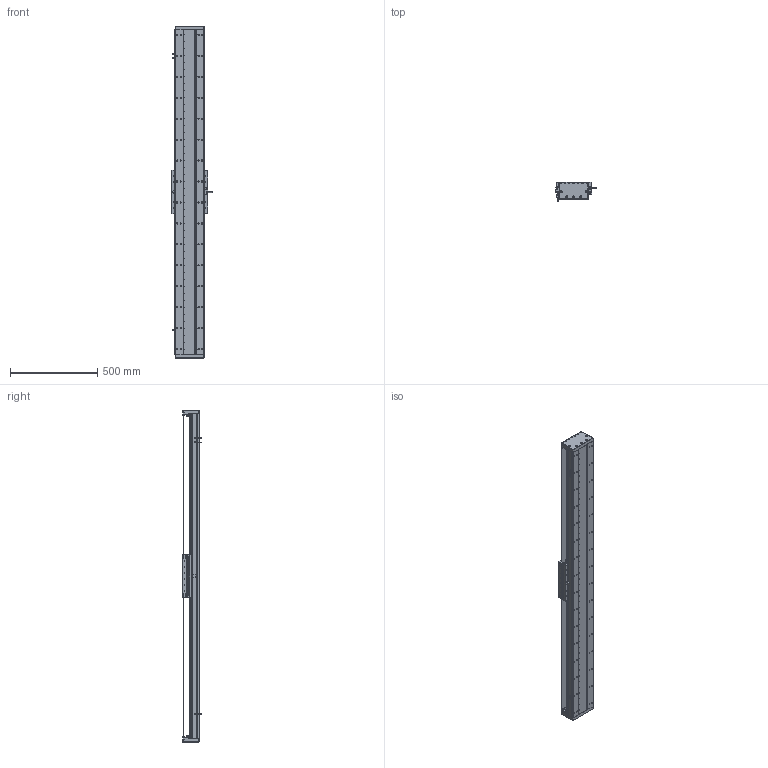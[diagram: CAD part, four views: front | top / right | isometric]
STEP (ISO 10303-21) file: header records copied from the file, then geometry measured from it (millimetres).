
FILE_DESCRIPTION (( 'STEP AP203' ), '1' );
FILE_NAME ('DA-C165-C3-T1560-C010-0.2 直线电机.STEP', '2023-06-13T08:47:32', ( '微软用户' ), ( '微软中国' ), 'SwSTEP 2.0', 'SolidWorks 2019', '' );
FILE_SCHEMA (( 'CONFIG_CONTROL_DESIGN' ));
Length unit declared in the file: millimetre
Products named in the file (18): 葩璃 CKM03-W075-C1C2-TP-3.0^DA-C165-C3-T-C010-0.2-N 眻盄萇儂; 葩璃 DA95-GT-T-00^IU-CU165-L 菁釱絳寢_T; 复件 DA165-GDLK-00 钢带拉块^复件 CU165钢带组件_DA-C165-C3-T-C010-0.2-N 直线电机; 葩璃 PM-T45^DA-C165-C3-T-C010-0.2-N 眻盄萇儂; 复件 CU165 底座^IU-CU165-L 底座导轨_L1860; 复件 CU165钢带组件^DA-C165-C3-T-C010-0.2-N 直线电机; IU-CU165-L 菁釱絳寢; 复件 DA95-HXJ-00 缓冲橡胶^DA-C165-C3-T-C010-0.2-N 直线电机; 葩璃 CKM01-W075-TRL^DA-C165-C3-T-C010-0.2-N 眻盄萇儂; DA-C165-C3-T1560-C010-0.2 眻盄萇儂; 珨极趙賑雄怢啣C3-wf; 复件 XD-U-02L 磁栅尺^DA-C165-C3-T-C010-0.2-N 直线电机_T; 复件 DMA-010-0.2 读数头^DA-C165-C3-T-C010-0.2-N 直线电机; 复件 DA165-GDYK-00 钢带压块^复件 CU165钢带组件_DA-C165-C3-T-C010-0.2-N 直线电机; 复件 DA165-GD-DG-H-00 端盖^复件 CU165钢带组件_DA-C165-C3-T-C010-0.2-N 直线电机; 复件 DA165-GD-1860-002-00 钢带盖板^复件 CU165钢带组件_DA-C165-C3-T-C010-0.2-N 直线电机; 复件 六角薄螺母 M3^DA-C165-C3-T-C010-0.2-N 直线电机_GB_FASTENER_NUT_STNAB M3-C; 复件 DA165-GYP-00 光电感应片^DA-C165-C3-T-C010-0.2-N 直线电机
Assembly tree (35 placements, depth 3):
  DA-C165-C3-T1560-C010-0.2 眻盄萇儂
    IU-CU165-L 菁釱絳寢
      复件 CU165 底座^IU-CU165-L 底座导轨_L1860
      葩璃 DA95-GT-T-00^IU-CU165-L 菁釱絳寢_T  x4
    复件 XD-U-02L 磁栅尺^DA-C165-C3-T-C010-0.2-N 直线电机_T
    葩璃 PM-T45^DA-C165-C3-T-C010-0.2-N 眻盄萇儂  x3
    葩璃 CKM01-W075-TRL^DA-C165-C3-T-C010-0.2-N 眻盄萇儂
    复件 CU165钢带组件^DA-C165-C3-T-C010-0.2-N 直线电机
      复件 DA165-GD-DG-H-00 端盖^复件 CU165钢带组件_DA-C165-C3-T-C010-0.2-N 直线电机  x2
      复件 DA165-GDYK-00 钢带压块^复件 CU165钢带组件_DA-C165-C3-T-C010-0.2-N 直线电机  x2
      复件 DA165-GD-1860-002-00 钢带盖板^复件 CU165钢带组件_DA-C165-C3-T-C010-0.2-N 直线电机
      复件 DA165-GDLK-00 钢带拉块^复件 CU165钢带组件_DA-C165-C3-T-C010-0.2-N 直线电机  x2
    复件 DA95-HXJ-00 缓冲橡胶^DA-C165-C3-T-C010-0.2-N 直线电机  x4
    复件 DA165-GYP-00 光电感应片^DA-C165-C3-T-C010-0.2-N 直线电机
    复件 DMA-010-0.2 读数头^DA-C165-C3-T-C010-0.2-N 直线电机
    葩璃 CKM03-W075-C1C2-TP-3.0^DA-C165-C3-T-C010-0.2-N 眻盄萇儂
    复件 六角薄螺母 M3^DA-C165-C3-T-C010-0.2-N 直线电机_GB_FASTENER_NUT_STNAB M3-C  x8
    珨极趙賑雄怢啣C3-wf
Bounding box: 233 x 111.45 x 1900 mm (x, y, z)
Volume: 11665803 mm3; surface area: 3364249.1 mm2
Topology: 72 solids, 122 shells, 4002 faces, 11119 edges, 6966 vertices
Faces by surface type: cylinder 2184, plane 1192, cone 576, torus 46, sphere 4
Entity records: 125557 total; most frequent: CARTESIAN_POINT 32347, DIRECTION 19031, ORIENTED_EDGE 18990, EDGE_CURVE 9495, AXIS2_PLACEMENT_3D 7276, VERTEX_POINT 6154, EDGE_LOOP 4491, VECTOR 4479
